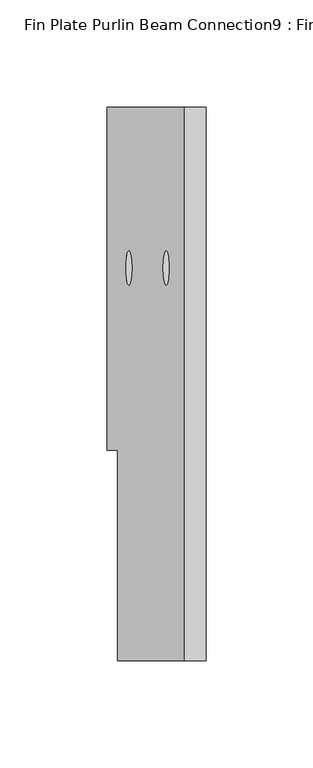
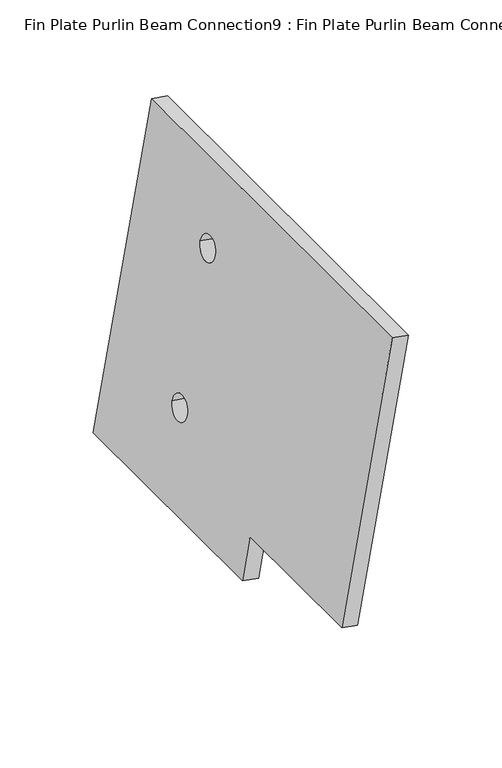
"""IFC4 building model written with IfcOpenShell, lengths in millimetres: proxy geometry, Fin Plate Purlin Beam Connection9 : Fin Plate Purlin Beam Connection."""

import ifcopenshell
import ifcopenshell.guid

model = None  # the IFC model being written
_history = None  # IfcOwnerHistory: only IFC2X3 demands one
_inside = {}  # id of a spatial element -> (the spatial element, [elements in it])
_under = {}  # id of a project, library or spatial element -> (it, [spatial elements below it])
_declared = {}  # id of a project -> (the project, [libraries it declares])
_typed = {}  # id of a type object -> (the type object, [elements of that type])
_made_of = {}  # id of a material, layer set ... -> (it, [elements and type objects made of it])


def new_model(schema):
    """Start an empty IFC model of exactly this schema.

    Asked for "IFC4X3", IfcOpenShell would pick the latest addendum, in which some entities
    have other attributes; the version numbers below select the first issue.
    IFC2X3 requires an IfcOwnerHistory on every rooted entity: one is made here for all.
    """
    global model, _history
    if schema == "IFC4X3":
        model = ifcopenshell.file(schema_version=(4, 3, 0, 0))
    else:
        model = ifcopenshell.file(schema=schema)
    _inside.clear()
    _under.clear()
    _declared.clear()
    _typed.clear()
    _made_of.clear()
    _history = None
    if model.schema == "IFC2X3":
        org = make("IfcOrganization", Name="unknown")
        user = make(
            "IfcPersonAndOrganization",
            ThePerson=make("IfcPerson", FamilyName="unknown"),
            TheOrganization=org,
        )
        app = make(
            "IfcApplication",
            ApplicationDeveloper=org,
            Version="unknown",
            ApplicationFullName="unknown",
            ApplicationIdentifier="unknown",
        )
        _history = make(
            "IfcOwnerHistory",
            OwningUser=user,
            OwningApplication=app,
            ChangeAction="ADDED",
            CreationDate=0,
        )
    return model


def make(cls, **values):
    """One entity of the class cls with the attributes given. An attribute that is None is left unset."""
    return model.create_entity(
        cls, **{name: value for name, value in values.items() if value is not None}
    )


def rooted(cls, **values):
    """An entity with a GlobalId (a new one), such as an element, a storey or a relation."""
    return make(cls, GlobalId=ifcopenshell.guid.new(), OwnerHistory=_history, **values)


def si_unit(unit_type, name, prefix=None):
    """IfcSIUnit, for example si_unit("LENGTHUNIT", "METRE", prefix="MILLI")."""
    return make("IfcSIUnit", UnitType=unit_type, Prefix=prefix, Name=name)


def assignment(units):
    """IfcUnitAssignment: the units of a project."""
    return None if units is None else make("IfcUnitAssignment", Units=units)


def point(xyz):
    """IfcCartesianPoint."""
    return None if xyz is None else make("IfcCartesianPoint", Coordinates=xyz)


def direction(xyz):
    """IfcDirection."""
    return None if xyz is None else make("IfcDirection", DirectionRatios=xyz)


def frame(location, z_axis=None, x_axis=None):
    """IfcAxis2Placement3D, a coordinate frame: its origin and axes. An axis left out is left unset."""
    return make(
        "IfcAxis2Placement3D",
        Location=point(location),
        Axis=direction(z_axis),
        RefDirection=direction(x_axis),
    )


def frame_2d(location, x_axis=None):
    """IfcAxis2Placement2D, a coordinate frame in the plane: its origin and x axis."""
    return make(
        "IfcAxis2Placement2D", Location=point(location), RefDirection=direction(x_axis)
    )


def origin():
    """The frame at (0, 0, 0) with its axes left unset."""
    return frame((0.0, 0.0, 0.0))


def place(relative_to, where):
    """IfcLocalPlacement: puts the frame where relative to a parent placement (None: the world)."""
    return make(
        "IfcLocalPlacement", PlacementRelTo=relative_to, RelativePlacement=where
    )


def context(
    kind, dimensions, precision=None, world=None, true_north=None, identifier=None
):
    """IfcGeometricRepresentationContext, for example the 3D "Model" context."""
    return make(
        "IfcGeometricRepresentationContext",
        ContextIdentifier=identifier,
        ContextType=kind,
        CoordinateSpaceDimension=dimensions,
        Precision=precision,
        WorldCoordinateSystem=world,
        TrueNorth=true_north,
    )


def project(units=None, contexts=None):
    """IfcProject with its units and contexts."""
    return rooted(
        "IfcProject",
        Name="project",
        RepresentationContexts=contexts,
        UnitsInContext=assignment(units),
    )


def spatial(cls, under=None, at=None, **own):
    """A site, building, storey or space (cls), placed at a placement, below another one or the project."""
    s = rooted(cls, ObjectPlacement=at, **own)
    if under is not None:
        _under.setdefault(under.id(), (under, []))[1].append(s)
    return s


def polyline(points):
    """IfcPolyline through the points."""
    return make("IfcPolyline", Points=[point(p) for p in points])


def circle_curve(where, radius):
    """IfcCircle in the frame where."""
    return make("IfcCircle", Position=where, Radius=radius)


def trimmed(basis, trim1, trim2, sense, master):
    """IfcTrimmedCurve: the piece of a basis curve between two trims."""
    return make(
        "IfcTrimmedCurve",
        BasisCurve=basis,
        Trim1=trim1,
        Trim2=trim2,
        SenseAgreement=sense,
        MasterRepresentation=master,
    )


def segment(curve, same_sense, transition):
    """IfcCompositeCurveSegment."""
    return make(
        "IfcCompositeCurveSegment",
        Transition=transition,
        SameSense=same_sense,
        ParentCurve=curve,
    )


def composite_curve(segments, self_intersect=None):
    """IfcCompositeCurve: segments joined end to end."""
    return make("IfcCompositeCurve", Segments=segments, SelfIntersect=self_intersect)


def outline(outer, holes=None, kind="AREA"):
    """IfcArbitraryClosedProfileDef: a profile drawn as a closed curve; with holes, ...WithVoids."""
    if holes is None:
        return make("IfcArbitraryClosedProfileDef", ProfileType=kind, OuterCurve=outer)
    return make(
        "IfcArbitraryProfileDefWithVoids",
        ProfileType=kind,
        OuterCurve=outer,
        InnerCurves=holes,
    )


def extrude(swept, where, along, depth):
    """IfcExtrudedAreaSolid: the profile swept, set in the frame where, extruded along a direction by depth."""
    return make(
        "IfcExtrudedAreaSolid",
        SweptArea=swept,
        Position=where,
        ExtrudedDirection=direction(along),
        Depth=depth,
    )


def shape(context_of_items, identifier, shape_type, items):
    """IfcShapeRepresentation: the items that make up one representation, for example the "Body"."""
    return make(
        "IfcShapeRepresentation",
        ContextOfItems=context_of_items,
        RepresentationIdentifier=identifier,
        RepresentationType=shape_type,
        Items=items,
    )


def source(mapping_origin, context_of_items, identifier, shape_type, items):
    """IfcRepresentationMap: a shape defined once, which mapped items show again and again."""
    return make(
        "IfcRepresentationMap",
        MappingOrigin=mapping_origin,
        MappedRepresentation=shape(context_of_items, identifier, shape_type, items),
    )


def transform(
    local_origin,
    x_axis=None,
    y_axis=None,
    z_axis=None,
    scale=None,
    scale2=None,
    scale3=None,
    uniform=True,
):
    """IfcCartesianTransformationOperator3D, or its non-uniform kind. x_axis, y_axis, z_axis: its Axis1, 2, 3."""
    if uniform:
        return make(
            "IfcCartesianTransformationOperator3D",
            Axis1=direction(x_axis),
            Axis2=direction(y_axis),
            LocalOrigin=point(local_origin),
            Scale=scale,
            Axis3=direction(z_axis),
        )
    return make(
        "IfcCartesianTransformationOperator3DnonUniform",
        Axis1=direction(x_axis),
        Axis2=direction(y_axis),
        LocalOrigin=point(local_origin),
        Scale=scale,
        Axis3=direction(z_axis),
        Scale2=scale2,
        Scale3=scale3,
    )


def mapped(mapping_source, mapping_target):
    """IfcMappedItem: shows the shape of a source again, moved by a transform."""
    return make(
        "IfcMappedItem", MappingSource=mapping_source, MappingTarget=mapping_target
    )


def made_of(thing, what):
    """Note that an element or type object is made of a material, layer set ...; save() writes the relation."""
    if what is not None:
        _made_of.setdefault(what.id(), (what, []))[1].append(thing)
    return thing


def element(
    cls,
    number,
    at=None,
    inside=None,
    cuts=None,
    type_object=None,
    material=None,
    context=None,
    identifier="Body",
    shape_type=None,
    held_by="IfcProductDefinitionShape",
    body=None,
    shapes=None,
    **own,
):
    """One element of the class cls, such as IfcWall. Its Tag is "e" and its number.

    at: its placement. inside: the storey or other place that contains it. cuts: it is an
    opening in that element (IfcRelVoidsElement). A single representation is given by context,
    identifier, shape_type and body (its items); several are given by shapes. held_by: the class
    of the entity that holds the representations. save() writes the other relations.
    """
    e = rooted(cls, Tag="e%d" % number, ObjectPlacement=at, **own)
    if body is not None:
        shapes = [shape(context, identifier, shape_type, body)]
    if shapes is not None:
        e.Representation = make(held_by, Representations=shapes)
    if inside is not None:
        _inside.setdefault(inside.id(), (inside, []))[1].append(e)
    if cuts is not None:
        rooted(
            "IfcRelVoidsElement", RelatingBuildingElement=cuts, RelatedOpeningElement=e
        )
    if type_object is not None:
        _typed.setdefault(type_object.id(), (type_object, []))[1].append(e)
    return made_of(e, material)


def aggregate(whole, parts):
    """IfcRelAggregates: a whole, such as a stair, and the parts it consists of."""
    return rooted("IfcRelAggregates", RelatingObject=whole, RelatedObjects=parts)


def save(model, path):
    """Write the relations noted so far, then the file.

    IfcRelAggregates (storeys below a building ...), IfcRelContainedInSpatialStructure (elements
    in a storey), IfcRelDefinesByType, IfcRelAssociatesMaterial and IfcRelDeclares: one each for
    every whole, place, type object, material and project.
    """
    for whole, parts in _under.values():
        aggregate(whole, parts)
    for where, things in _inside.values():
        rooted(
            "IfcRelContainedInSpatialStructure",
            RelatedElements=things,
            RelatingStructure=where,
        )
    for kind, things in _typed.values():
        rooted("IfcRelDefinesByType", RelatedObjects=things, RelatingType=kind)
    for what, things in _made_of.values():
        rooted("IfcRelAssociatesMaterial", RelatedObjects=things, RelatingMaterial=what)
    for by, libraries in _declared.values():
        rooted("IfcRelDeclares", RelatingContext=by, RelatedDefinitions=libraries)
    model.write(path)


def fin_plate_purlin_beam_connection9_fin_plate_purlin_beam_9cc1f38e(model_context):
    return source(origin(), model_context, "Body", "SweptSolid", [
        extrude(outline(polyline([(181.2383862, 0.0), (181.2383862, -98.2), (208.9560483, -98.2), (208.9560483, -258.2), (0.0, -258.2), (0.0, 0.0), (181.2383862, 0.0)]), holes=[composite_curve([segment(trimmed(circle_curve(frame_2d((50.0, -183.2)), 8.0), [point((50.0, -175.2))], [point((50.0, -191.2))], True, "CARTESIAN"), True, "CONTINUOUS"), segment(trimmed(circle_curve(frame_2d((50.0, -183.2)), 8.0), [point((50.0, -191.2))], [point((50.0, -175.2))], True, "CARTESIAN"), True, "CONTINUOUS")], self_intersect=False), composite_curve([segment(trimmed(circle_curve(frame_2d((149.9999999, -183.2)), 8.0), [point((149.9999999, -175.2))], [point((149.9999999, -191.2))], True, "CARTESIAN"), True, "CONTINUOUS"), segment(trimmed(circle_curve(frame_2d((149.9999999, -183.2)), 8.0), [point((149.9999999, -191.2))], [point((149.9999999, -175.2))], True, "CARTESIAN"), True, "CONTINUOUS")], self_intersect=False)]), frame((-31910.9268079, 15858.023117, 3454.4961306), z_axis=(-0.9848077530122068, 0.0, 0.17364817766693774), x_axis=(-0.17364817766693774, 0.0, -0.9848077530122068)), (0.0, 0.0, 1.0), 10.0),
    ])


if __name__ == "__main__":
    model = new_model("IFC4")
    model_context = context("Model", 3, world=origin())
    ifc_project = project(units=[si_unit("LENGTHUNIT", "METRE", prefix="MILLI")], contexts=[model_context])
    site = spatial("IfcSite", under=ifc_project)
    building = spatial("IfcBuilding", under=site)
    placement = place(None, origin())
    fin_plate_purlin_beam_connection9_fin_plate_purlin_beam_shape = fin_plate_purlin_beam_connection9_fin_plate_purlin_beam_9cc1f38e(model_context)
    element("IfcBuildingElementProxy", 1, Name="Fin Plate Purlin Beam Connection9 : Fin Plate Purlin Beam Connection", ObjectType="Fin Plate Purlin Beam Connection9 : Fin Plate Purlin Beam Connection", at=placement, inside=building, context=model_context, shape_type="MappedRepresentation", body=[
        mapped(fin_plate_purlin_beam_connection9_fin_plate_purlin_beam_shape, transform((0.0, 0.0, 0.0), x_axis=(1.0, 0.0, 0.0), y_axis=(0.0, 1.0, 0.0), z_axis=(0.0, 0.0, 1.0))),
    ])
    save(model, "model.ifc")
